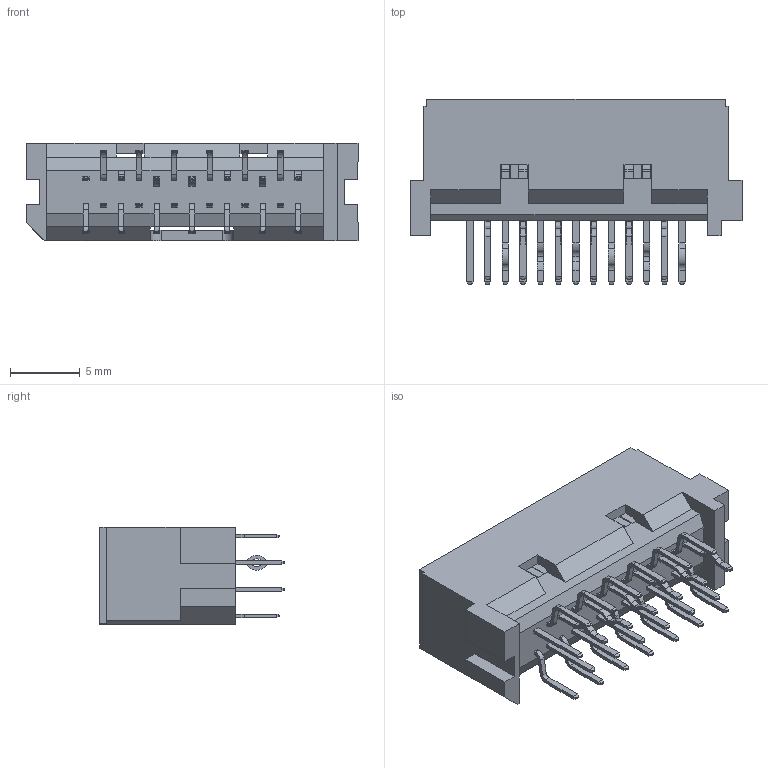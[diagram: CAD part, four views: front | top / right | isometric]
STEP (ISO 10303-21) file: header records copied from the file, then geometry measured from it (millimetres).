
FILE_DESCRIPTION (( 'STEP AP203' ), '1' );
FILE_NAME ('DHB-PB26-S13NNX-FA.STEP', '2022-03-14T10:29:36', ( '' ), ( '' ), 'SwSTEP 2.0', 'SolidWorks 2018', '' );
FILE_SCHEMA (( 'CONFIG_CONTROL_DESIGN' ));
Length unit declared in the file: millimetre
Products named in the file (1): DHB-PB26-S13NNX-FA
Bounding box: 23.84 x 13.3 x 7 mm (x, y, z)
Volume: 845.4 mm3; surface area: 1587.4 mm2
Topology: 1 solids, 1 shells, 1265 faces, 3600 edges, 2358 vertices
Faces by surface type: plane 972, cylinder 283, cone 10
Entity records: 40649 total; most frequent: CARTESIAN_POINT 7536, ORIENTED_EDGE 7200, DIRECTION 6502, EDGE_CURVE 3600, LINE 3022, VECTOR 3022, VERTEX_POINT 2358, AXIS2_PLACEMENT_3D 1740
